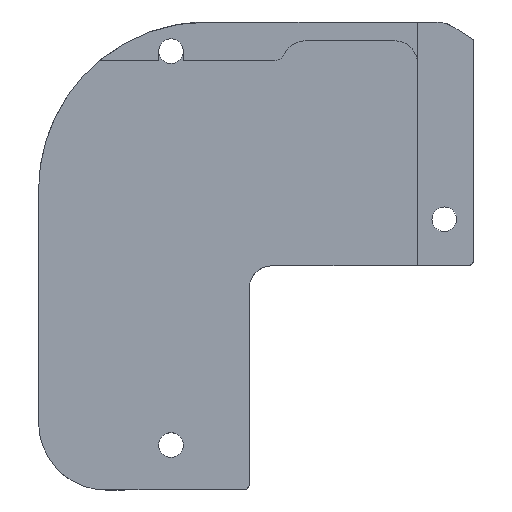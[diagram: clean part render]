
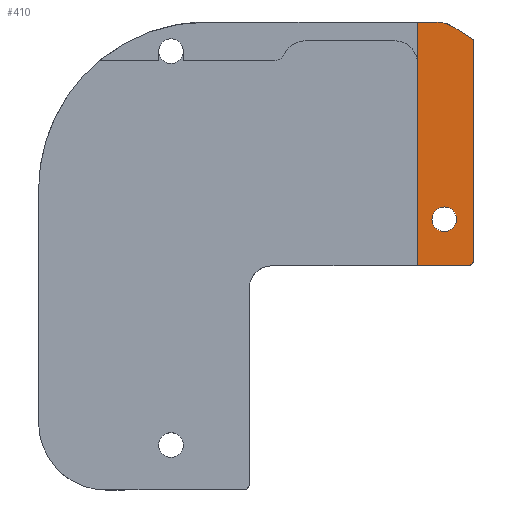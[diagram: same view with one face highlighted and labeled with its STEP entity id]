
A CAD part, top view. The second image highlights one B-rep face of the part: STEP entity #410.
In plain terms, the highlighted planar face has unit normal (0, 0, 1).
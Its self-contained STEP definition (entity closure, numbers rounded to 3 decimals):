
#12 = DIRECTION ( 'NONE',  ( 0., 0., 1. ) ) ;
#21 = VERTEX_POINT ( 'NONE', #232 ) ;
#39 = EDGE_LOOP ( 'NONE', ( #632, #585, #463, #210, #1325, #1067, #609 ) ) ;
#91 = DIRECTION ( 'NONE',  ( -0.842, 0.539, 0. ) ) ;
#99 = VECTOR ( 'NONE', #991, 1000. ) ;
#113 = DIRECTION ( 'NONE',  ( 1., 0., 0. ) ) ;
#131 = CARTESIAN_POINT ( 'NONE',  ( 34., -138.759, -3.18 ) ) ;
#147 = CARTESIAN_POINT ( 'NONE',  ( 34., -76.145, -3.18 ) ) ;
#179 = VERTEX_POINT ( 'NONE', #594 ) ;
#196 = DIRECTION ( 'NONE',  ( -1., 0., 0. ) ) ;
#210 = ORIENTED_EDGE ( 'NONE', *, *, #1410, .T. ) ;
#211 = LINE ( 'NONE', #888, #1501 ) ;
#232 = CARTESIAN_POINT ( 'NONE',  ( 37.256, -54.873, -3.18 ) ) ;
#269 = CIRCLE ( 'NONE', #1526, 0.5 ) ;
#392 = DIRECTION ( 'NONE',  ( -1., 0., 0. ) ) ;
#409 = LINE ( 'NONE', #147, #814 ) ;
#410 = ADVANCED_FACE ( 'NONE', ( #1418, #487 ), #1192, .T. ) ;
#418 = CIRCLE ( 'NONE', #860, 1.1 ) ;
#422 = CARTESIAN_POINT ( 'NONE',  ( 39., -75.645, -3.18 ) ) ;
#427 = CARTESIAN_POINT ( 'NONE',  ( 35.3, -72., -3.18 ) ) ;
#458 = CARTESIAN_POINT ( 'NONE',  ( 35.639, -57.4, -3.18 ) ) ;
#463 = ORIENTED_EDGE ( 'NONE', *, *, #645, .T. ) ;
#487 = FACE_OUTER_BOUND ( 'NONE', #39, .T. ) ;
#490 = CIRCLE ( 'NONE', #1354, 3. ) ;
#505 = VERTEX_POINT ( 'NONE', #1136 ) ;
#519 = DIRECTION ( 'NONE',  ( 1., 0., 0. ) ) ;
#565 = AXIS2_PLACEMENT_3D ( 'NONE', #131, #12, #958 ) ;
#585 = ORIENTED_EDGE ( 'NONE', *, *, #968, .T. ) ;
#594 = CARTESIAN_POINT ( 'NONE',  ( 35.639, -54.4, -3.18 ) ) ;
#609 = ORIENTED_EDGE ( 'NONE', *, *, #1267, .F. ) ;
#632 = ORIENTED_EDGE ( 'NONE', *, *, #1309, .T. ) ;
#645 = EDGE_CURVE ( 'NONE', #806, #1228, #821, .T. ) ;
#691 = EDGE_CURVE ( 'NONE', #21, #179, #490, .T. ) ;
#699 = DIRECTION ( 'NONE',  ( 1., 0., 0. ) ) ;
#703 = VERTEX_POINT ( 'NONE', #739 ) ;
#722 = CARTESIAN_POINT ( 'NONE',  ( 39., -138.759, -3.18 ) ) ;
#733 = CARTESIAN_POINT ( 'NONE',  ( 34., -138.759, -3.18 ) ) ;
#739 = CARTESIAN_POINT ( 'NONE',  ( 34., -54.4, -3.18 ) ) ;
#740 = VECTOR ( 'NONE', #1164, 1000. ) ;
#806 = VERTEX_POINT ( 'NONE', #422 ) ;
#814 = VECTOR ( 'NONE', #519, 1000. ) ;
#821 = LINE ( 'NONE', #722, #740 ) ;
#860 = AXIS2_PLACEMENT_3D ( 'NONE', #981, #881, #392 ) ;
#881 = DIRECTION ( 'NONE',  ( 0., 0., -1. ) ) ;
#888 = CARTESIAN_POINT ( 'NONE',  ( 73.033, -77.771, -3.18 ) ) ;
#910 = LINE ( 'NONE', #1505, #1305 ) ;
#930 = DIRECTION ( 'NONE',  ( 0., 0., 1. ) ) ;
#939 = DIRECTION ( 'NONE',  ( 0., 0., 1. ) ) ;
#945 = CARTESIAN_POINT ( 'NONE',  ( 38.5, -75.645, -3.18 ) ) ;
#958 = DIRECTION ( 'NONE',  ( 1., 0., 0. ) ) ;
#968 = EDGE_CURVE ( 'NONE', #505, #806, #269, .T. ) ;
#981 = CARTESIAN_POINT ( 'NONE',  ( 36.4, -72., -3.18 ) ) ;
#989 = ORIENTED_EDGE ( 'NONE', *, *, #1332, .T. ) ;
#991 = DIRECTION ( 'NONE',  ( 0., 1., 0. ) ) ;
#1050 = CARTESIAN_POINT ( 'NONE',  ( 39., -55.989, -3.18 ) ) ;
#1067 = ORIENTED_EDGE ( 'NONE', *, *, #1470, .T. ) ;
#1136 = CARTESIAN_POINT ( 'NONE',  ( 38.5, -76.145, -3.18 ) ) ;
#1137 = VERTEX_POINT ( 'NONE', #1361 ) ;
#1164 = DIRECTION ( 'NONE',  ( 0., 1., 0. ) ) ;
#1192 = PLANE ( 'NONE',  #565 ) ;
#1220 = EDGE_LOOP ( 'NONE', ( #989 ) ) ;
#1228 = VERTEX_POINT ( 'NONE', #1050 ) ;
#1239 = LINE ( 'NONE', #733, #99 ) ;
#1267 = EDGE_CURVE ( 'NONE', #1137, #703, #1239, .T. ) ;
#1305 = VECTOR ( 'NONE', #196, 1000. ) ;
#1309 = EDGE_CURVE ( 'NONE', #1137, #505, #409, .T. ) ;
#1325 = ORIENTED_EDGE ( 'NONE', *, *, #691, .T. ) ;
#1332 = EDGE_CURVE ( 'NONE', #1378, #1378, #418, .T. ) ;
#1354 = AXIS2_PLACEMENT_3D ( 'NONE', #458, #930, #113 ) ;
#1361 = CARTESIAN_POINT ( 'NONE',  ( 34., -76.145, -3.18 ) ) ;
#1378 = VERTEX_POINT ( 'NONE', #427 ) ;
#1410 = EDGE_CURVE ( 'NONE', #1228, #21, #211, .T. ) ;
#1418 = FACE_BOUND ( 'NONE', #1220, .T. ) ;
#1470 = EDGE_CURVE ( 'NONE', #179, #703, #910, .T. ) ;
#1501 = VECTOR ( 'NONE', #91, 1000. ) ;
#1505 = CARTESIAN_POINT ( 'NONE',  ( 34., -54.4, -3.18 ) ) ;
#1526 = AXIS2_PLACEMENT_3D ( 'NONE', #945, #939, #699 ) ;
